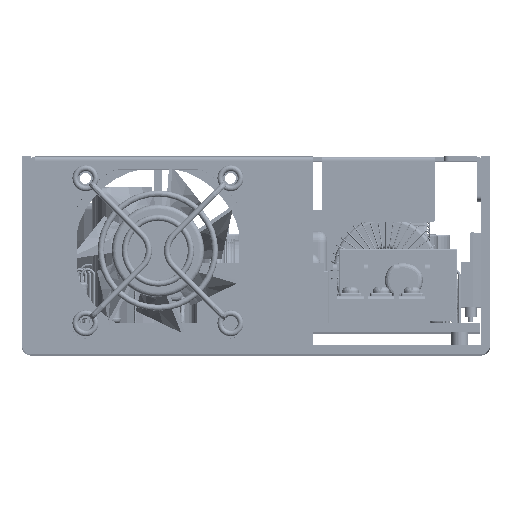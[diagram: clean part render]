
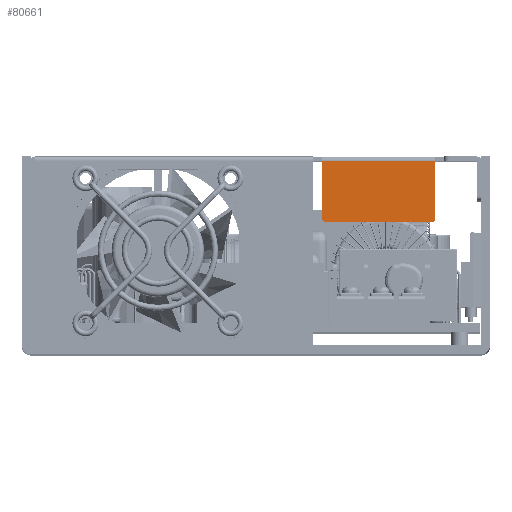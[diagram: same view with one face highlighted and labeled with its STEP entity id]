
A CAD part, top view. The second image highlights one B-rep face of the part: STEP entity #80661.
In plain terms, the highlighted planar face has unit normal (0, 0, 1) as drawn and (-1, 0, 0) by its records, which use the part's own axes.
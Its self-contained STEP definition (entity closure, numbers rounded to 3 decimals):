
#9872 = CIRCLE ( 'NONE', #10377, 1. ) ;
#10367 = CARTESIAN_POINT ( 'NONE',  ( -84., -16.025, -13. ) ) ;
#10377 = AXIS2_PLACEMENT_3D ( 'NONE', #10367, #10387, #10392 ) ;
#10387 = DIRECTION ( 'NONE',  ( -1., 0., 0. ) ) ;
#10392 = DIRECTION ( 'NONE',  ( 0., 0., 1. ) ) ;
#68456 = CARTESIAN_POINT ( 'NONE',  ( -84., -16.025, -14. ) ) ;
#68806 = AXIS2_PLACEMENT_3D ( 'NONE', #68857, #68856, #68855 ) ;
#68812 = PLANE ( 'NONE',  #68806 ) ;
#68855 = DIRECTION ( 'NONE',  ( 0., 0., 1. ) ) ;
#68856 = DIRECTION ( 'NONE',  ( -1., 0., 0. ) ) ;
#68857 = CARTESIAN_POINT ( 'NONE',  ( -84., -15.025, 1. ) ) ;
#68859 = CARTESIAN_POINT ( 'NONE',  ( -84., -15.025, -13. ) ) ;
#68861 = CARTESIAN_POINT ( 'NONE',  ( -84., -15.025, 0. ) ) ;
#68869 = FACE_OUTER_BOUND ( 'NONE', #80728, .T. ) ;
#68902 = CARTESIAN_POINT ( 'NONE',  ( -84., -40.825, 0. ) ) ;
#68904 = CARTESIAN_POINT ( 'NONE',  ( -84., -39.825, -14. ) ) ;
#68908 = DIRECTION ( 'NONE',  ( 0., 1., 0. ) ) ;
#68909 = VECTOR ( 'NONE', #68908, 1000. ) ;
#68913 = CIRCLE ( 'NONE', #68927, 1. ) ;
#68918 = CARTESIAN_POINT ( 'NONE',  ( -84., -15.025, -14. ) ) ;
#68919 = LINE ( 'NONE', #68918, #68909 ) ;
#68920 = CARTESIAN_POINT ( 'NONE',  ( -84., -40.825, -13. ) ) ;
#68922 = CARTESIAN_POINT ( 'NONE',  ( -84., -39.825, -13. ) ) ;
#68926 = LINE ( 'NONE', #68976, #68975 ) ;
#68927 = AXIS2_PLACEMENT_3D ( 'NONE', #68922, #68978, #68977 ) ;
#68940 = DIRECTION ( 'NONE',  ( 0., 0., -1. ) ) ;
#68953 = VECTOR ( 'NONE', #68940, 1000. ) ;
#68956 = CARTESIAN_POINT ( 'NONE',  ( -84., -15.025, 1. ) ) ;
#68957 = LINE ( 'NONE', #68956, #68953 ) ;
#68966 = DIRECTION ( 'NONE',  ( 0., 1., 0. ) ) ;
#68967 = VECTOR ( 'NONE', #68966, 1000. ) ;
#68969 = CARTESIAN_POINT ( 'NONE',  ( -84., -15.025, 0. ) ) ;
#68971 = LINE ( 'NONE', #68969, #68967 ) ;
#68974 = DIRECTION ( 'NONE',  ( 0., 0., -1. ) ) ;
#68975 = VECTOR ( 'NONE', #68974, 1000. ) ;
#68976 = CARTESIAN_POINT ( 'NONE',  ( -84., -40.825, 1. ) ) ;
#68977 = DIRECTION ( 'NONE',  ( 0., 0., 1. ) ) ;
#68978 = DIRECTION ( 'NONE',  ( -1., 0., 0. ) ) ;
#80660 = ORIENTED_EDGE ( 'NONE', *, *, #80734, .T. ) ;
#80661 = ADVANCED_FACE ( 'NONE', ( #68869 ), #68812, .T. ) ;
#80669 = VERTEX_POINT ( 'NONE', #68861 ) ;
#80670 = VERTEX_POINT ( 'NONE', #68859 ) ;
#80672 = ORIENTED_EDGE ( 'NONE', *, *, #80716, .F. ) ;
#80678 = VERTEX_POINT ( 'NONE', #68902 ) ;
#80685 = ORIENTED_EDGE ( 'NONE', *, *, #80730, .T. ) ;
#80714 = ORIENTED_EDGE ( 'NONE', *, *, #80720, .F. ) ;
#80715 = VERTEX_POINT ( 'NONE', #68920 ) ;
#80716 = EDGE_CURVE ( 'NONE', #80733, #80735, #68919, .T. ) ;
#80717 = EDGE_CURVE ( 'NONE', #80733, #80715, #68913, .T. ) ;
#80719 = ORIENTED_EDGE ( 'NONE', *, *, #80717, .T. ) ;
#80720 = EDGE_CURVE ( 'NONE', #80678, #80715, #68926, .T. ) ;
#80721 = ORIENTED_EDGE ( 'NONE', *, *, #80722, .T. ) ;
#80722 = EDGE_CURVE ( 'NONE', #80678, #80669, #68971, .T. ) ;
#80728 = EDGE_LOOP ( 'NONE', ( #80685, #80660, #80672, #80719, #80714, #80721 ) ) ;
#80730 = EDGE_CURVE ( 'NONE', #80669, #80670, #68957, .T. ) ;
#80733 = VERTEX_POINT ( 'NONE', #68904 ) ;
#80734 = EDGE_CURVE ( 'NONE', #80670, #80735, #9872, .T. ) ;
#80735 = VERTEX_POINT ( 'NONE', #68456 ) ;
